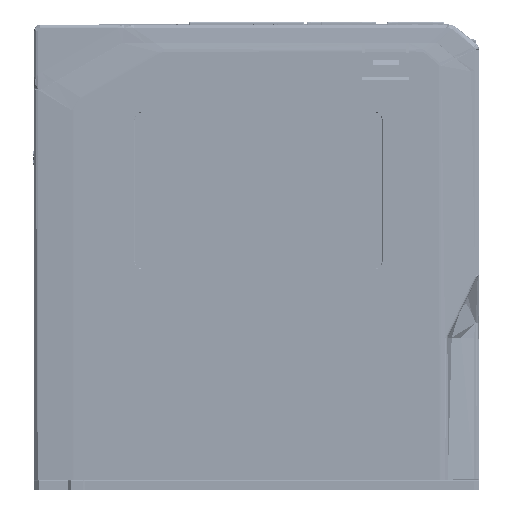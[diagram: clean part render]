
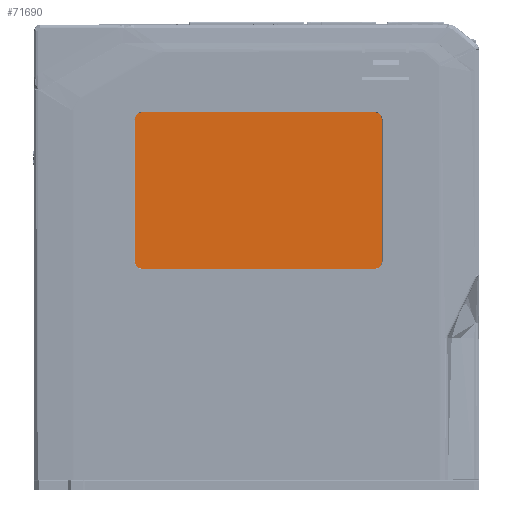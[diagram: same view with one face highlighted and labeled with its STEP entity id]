
A CAD part, left-side view. The second image highlights one B-rep face of the part: STEP entity #71690.
In plain terms, the highlighted planar face has unit normal (-1, 0, 0).
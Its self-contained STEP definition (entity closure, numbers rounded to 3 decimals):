
#3068 = ORIENTED_EDGE ( 'NONE', *, *, #427590, .T. ) ;
#11503 = CARTESIAN_POINT ( 'NONE',  ( -77.422, 24.093, -91.45 ) ) ;
#32030 = DIRECTION ( 'NONE',  ( 0., -1., 0. ) ) ;
#32468 = CARTESIAN_POINT ( 'NONE',  ( -77.422, 24.093, -94.45 ) ) ;
#34003 = VECTOR ( 'NONE', #634809, 1000. ) ;
#43449 = ORIENTED_EDGE ( 'NONE', *, *, #555712, .T. ) ;
#44032 = ORIENTED_EDGE ( 'NONE', *, *, #501408, .T. ) ;
#71690 = ADVANCED_FACE ( 'NONE', ( #89040 ), #85270, .T. ) ;
#85270 = PLANE ( 'NONE',  #588122 ) ;
#89040 = FACE_OUTER_BOUND ( 'NONE', #573804, .T. ) ;
#99796 = AXIS2_PLACEMENT_3D ( 'NONE', #379783, #445292, #151934 ) ;
#105168 = ORIENTED_EDGE ( 'NONE', *, *, #338348, .T. ) ;
#105984 = CIRCLE ( 'NONE', #611211, 3. ) ;
#111831 = VERTEX_POINT ( 'NONE', #609139 ) ;
#116767 = DIRECTION ( 'NONE',  ( 0., 0., 1. ) ) ;
#124598 = CIRCLE ( 'NONE', #99796, 3. ) ;
#151934 = DIRECTION ( 'NONE',  ( 0., 0., 1. ) ) ;
#163965 = CARTESIAN_POINT ( 'NONE',  ( -77.422, 24.093, -33.85 ) ) ;
#169660 = DIRECTION ( 'NONE',  ( 0., 0., 1. ) ) ;
#185209 = CARTESIAN_POINT ( 'NONE',  ( -77.422, 27.093, -36.85 ) ) ;
#192272 = VERTEX_POINT ( 'NONE', #404359 ) ;
#197259 = DIRECTION ( 'NONE',  ( -1., 0., 0. ) ) ;
#201738 = VECTOR ( 'NONE', #116767, 1000. ) ;
#212498 = ORIENTED_EDGE ( 'NONE', *, *, #438040, .T. ) ;
#214986 = ORIENTED_EDGE ( 'NONE', *, *, #260471, .T. ) ;
#216215 = DIRECTION ( 'NONE',  ( -1., 0., 0. ) ) ;
#229982 = CARTESIAN_POINT ( 'NONE',  ( -77.422, 27.093, -91.45 ) ) ;
#231048 = EDGE_CURVE ( 'NONE', #192272, #111831, #105984, .T. ) ;
#246882 = DIRECTION ( 'NONE',  ( 0., -1., 0. ) ) ;
#260471 = EDGE_CURVE ( 'NONE', #363785, #192272, #659795, .T. ) ;
#277894 = CARTESIAN_POINT ( 'NONE',  ( -77.422, -65.507, -36.85 ) ) ;
#278030 = EDGE_CURVE ( 'NONE', #111831, #552036, #457320, .T. ) ;
#303649 = VECTOR ( 'NONE', #355108, 1000. ) ;
#313106 = DIRECTION ( 'NONE',  ( 0., 0., 1. ) ) ;
#328254 = CARTESIAN_POINT ( 'NONE',  ( -77.422, 24.093, -91.45 ) ) ;
#338348 = EDGE_CURVE ( 'NONE', #552036, #639432, #124598, .T. ) ;
#355108 = DIRECTION ( 'NONE',  ( 0., 0., -1. ) ) ;
#362183 = VERTEX_POINT ( 'NONE', #382915 ) ;
#363785 = VERTEX_POINT ( 'NONE', #649469 ) ;
#368757 = CARTESIAN_POINT ( 'NONE',  ( -77.422, 24.093, -33.85 ) ) ;
#372448 = VECTOR ( 'NONE', #433735, 1000. ) ;
#379452 = DIRECTION ( 'NONE',  ( -1., 0., 0. ) ) ;
#379783 = CARTESIAN_POINT ( 'NONE',  ( -77.422, 24.093, -36.85 ) ) ;
#382915 = CARTESIAN_POINT ( 'NONE',  ( -77.422, -65.507, -94.45 ) ) ;
#404359 = CARTESIAN_POINT ( 'NONE',  ( -77.422, -68.507, -36.85 ) ) ;
#417119 = VERTEX_POINT ( 'NONE', #32468 ) ;
#427590 = EDGE_CURVE ( 'NONE', #417119, #362183, #491674, .T. ) ;
#433735 = DIRECTION ( 'NONE',  ( 0., -1., 0. ) ) ;
#438040 = EDGE_CURVE ( 'NONE', #362183, #363785, #675197, .T. ) ;
#445292 = DIRECTION ( 'NONE',  ( -1., 0., 0. ) ) ;
#457320 = LINE ( 'NONE', #163965, #34003 ) ;
#474766 = LINE ( 'NONE', #185209, #303649 ) ;
#491674 = LINE ( 'NONE', #726974, #372448 ) ;
#501408 = EDGE_CURVE ( 'NONE', #615853, #417119, #761013, .T. ) ;
#539136 = AXIS2_PLACEMENT_3D ( 'NONE', #11503, #609533, #246882 ) ;
#547864 = CARTESIAN_POINT ( 'NONE',  ( -77.422, -68.507, -36.85 ) ) ;
#552036 = VERTEX_POINT ( 'NONE', #368757 ) ;
#555712 = EDGE_CURVE ( 'NONE', #639432, #615853, #474766, .T. ) ;
#573804 = EDGE_LOOP ( 'NONE', ( #105168, #43449, #44032, #3068, #212498, #214986, #690098, #616813 ) ) ;
#588122 = AXIS2_PLACEMENT_3D ( 'NONE', #328254, #197259, #313106 ) ;
#595197 = CARTESIAN_POINT ( 'NONE',  ( -77.422, 27.093, -36.85 ) ) ;
#609139 = CARTESIAN_POINT ( 'NONE',  ( -77.422, -65.507, -33.85 ) ) ;
#609533 = DIRECTION ( 'NONE',  ( -1., 0., 0. ) ) ;
#611211 = AXIS2_PLACEMENT_3D ( 'NONE', #277894, #216215, #169660 ) ;
#614847 = CARTESIAN_POINT ( 'NONE',  ( -77.422, -65.507, -91.45 ) ) ;
#615853 = VERTEX_POINT ( 'NONE', #229982 ) ;
#616813 = ORIENTED_EDGE ( 'NONE', *, *, #278030, .T. ) ;
#634809 = DIRECTION ( 'NONE',  ( 0., 1., 0. ) ) ;
#639432 = VERTEX_POINT ( 'NONE', #595197 ) ;
#649469 = CARTESIAN_POINT ( 'NONE',  ( -77.422, -68.507, -91.45 ) ) ;
#659795 = LINE ( 'NONE', #547864, #201738 ) ;
#675197 = CIRCLE ( 'NONE', #749006, 3. ) ;
#690098 = ORIENTED_EDGE ( 'NONE', *, *, #231048, .T. ) ;
#726974 = CARTESIAN_POINT ( 'NONE',  ( -77.422, 24.093, -94.45 ) ) ;
#749006 = AXIS2_PLACEMENT_3D ( 'NONE', #614847, #379452, #32030 ) ;
#761013 = CIRCLE ( 'NONE', #539136, 3. ) ;
